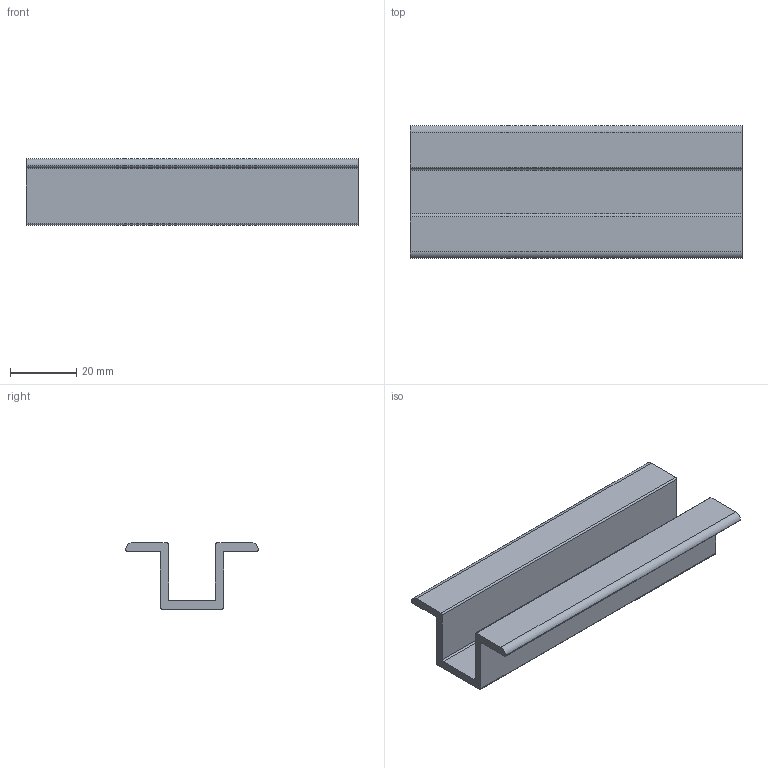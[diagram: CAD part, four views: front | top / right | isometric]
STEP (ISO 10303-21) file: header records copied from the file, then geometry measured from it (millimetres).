
FILE_DESCRIPTION (( 'STEP AP214' ), '1' );
FILE_NAME ('084.106.004.STEP', '2020-07-23T08:07:36', ( '' ), ( '' ), 'SwSTEP 2.0', 'SolidWorks 2018', '' );
FILE_SCHEMA (( 'AUTOMOTIVE_DESIGN' ));
Length unit declared in the file: millimetre
Products named in the file (1): 084.106.004
Bounding box: 100 x 40 x 20 mm (x, y, z)
Volume: 18567.6 mm3; surface area: 15485.1 mm2
Topology: 1 solids, 1 shells, 24 faces, 66 edges, 44 vertices
Faces by surface type: cylinder 12, plane 12
Entity records: 808 total; most frequent: DIRECTION 140, CARTESIAN_POINT 135, ORIENTED_EDGE 132, EDGE_CURVE 66, AXIS2_PLACEMENT_3D 49, VERTEX_POINT 44, VECTOR 42, LINE 42
